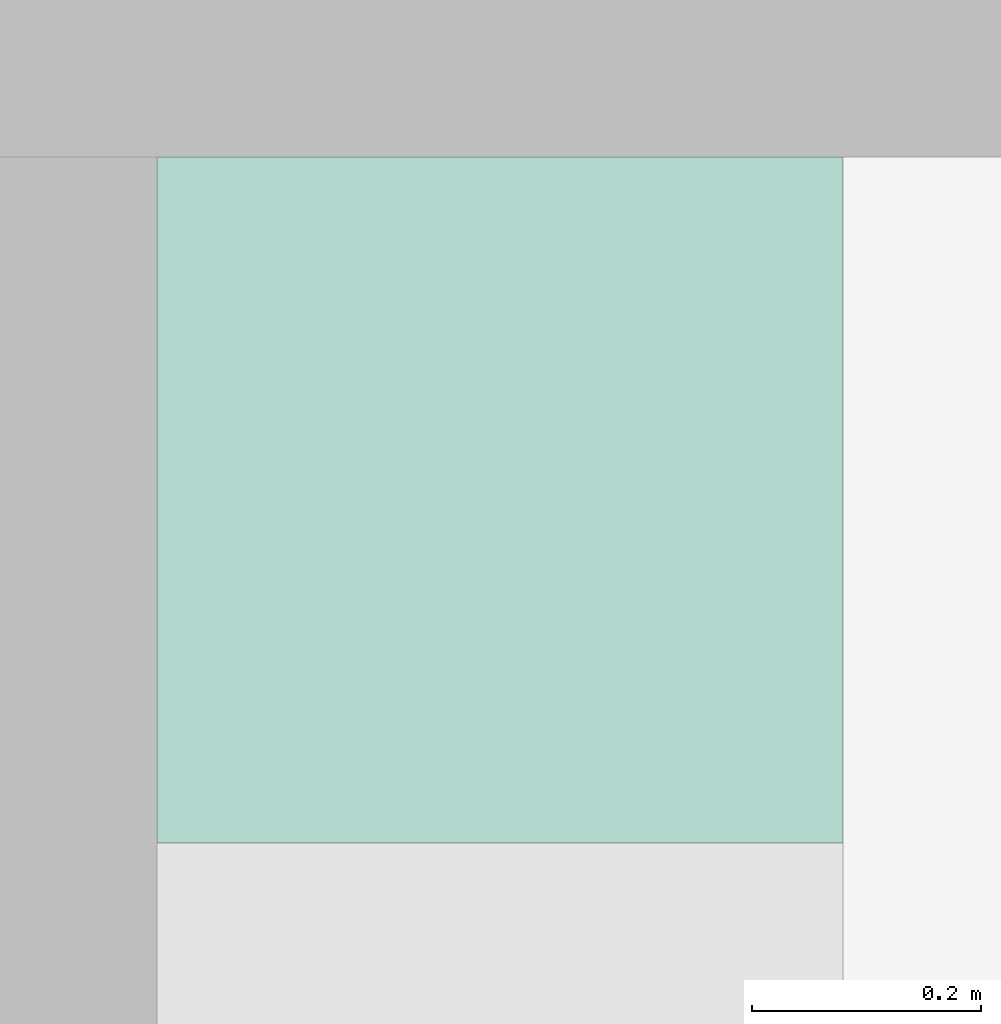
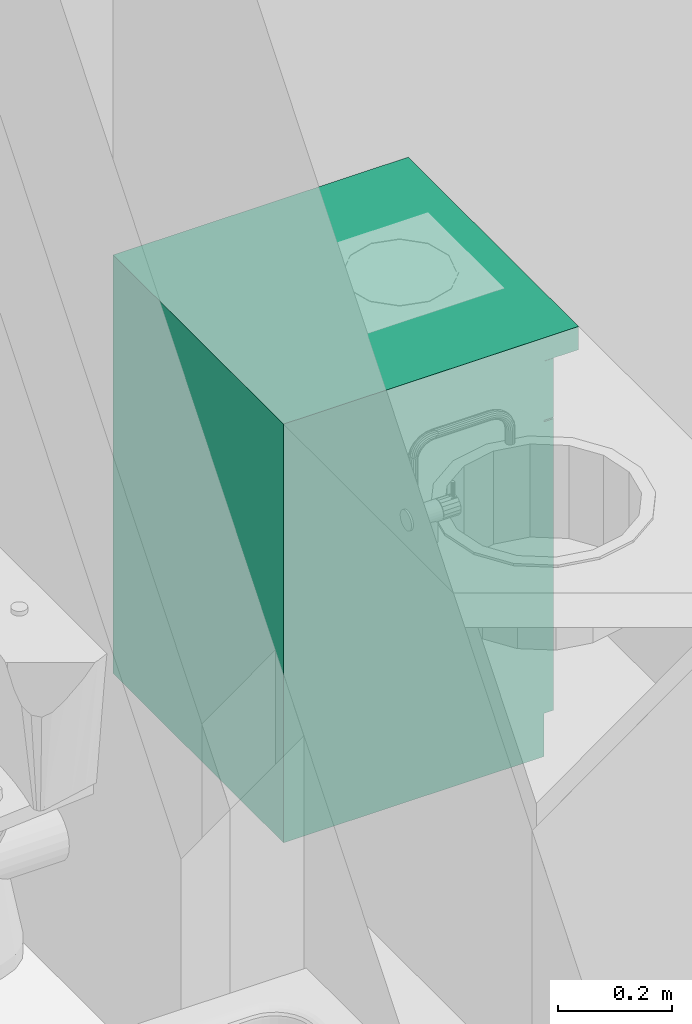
# One storey, part 39 of 165: 1 flow terminal.
"""IFC2X3 building model written with IfcOpenShell, lengths in millimetres."""

from ifc_helpers import new_model, entity, si_unit, converted_unit, money_unit, direction, frame, origin_with_axes, place, context, subcontext, project, spatial, faceted_brep, source, transform, mapped, material, material_list, type_object, element, save


model = new_model("IFC2X3")

# Units and contexts
model_context = context("Model", 3, precision=1e-05, world=origin_with_axes(), true_north=direction((0.0, 1.0)))
body_context = subcontext(model_context, "Body", "Model", "MODEL_VIEW")
ifc_project = project(units=[si_unit("LENGTHUNIT", "METRE", prefix="MILLI"), si_unit("AREAUNIT", "SQUARE_METRE"), si_unit("VOLUMEUNIT", "CUBIC_METRE"), converted_unit("PLANEANGLEUNIT", "DEGREE", entity("IfcPlaneAngleMeasure", 0.0174532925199), si_unit("PLANEANGLEUNIT", "RADIAN"), dimensions=[0, 0, 0, 0, 0, 0, 0]), si_unit("SOLIDANGLEUNIT", "STERADIAN"), money_unit("USD"), converted_unit("TIMEUNIT", "Year", entity("IfcTimeMeasure", 31556926.0), si_unit("TIMEUNIT", "SECOND"), dimensions=[0, 0, 0, 0, 0, 0, 0]), si_unit("MASSUNIT", "GRAM"), si_unit("THERMODYNAMICTEMPERATUREUNIT", "DEGREE_CELSIUS"), si_unit("LUMINOUSINTENSITYUNIT", "LUMEN")], contexts=[model_context])

# Site, building, storey
site_placement = place(None, origin_with_axes())
site = spatial("IfcSite", under=ifc_project, at=site_placement, Name="Site", CompositionType="ELEMENT")
building_placement = place(site_placement, origin_with_axes())
building = spatial("IfcBuilding", under=site, at=building_placement, Name="Building", CompositionType="ELEMENT")
storey_placement = place(building_placement, frame((0.0, 0.0, 6300.0), z_axis=(0.0, 0.0, 1.0), x_axis=(1.0, 0.0, 0.0)))
storey = spatial("IfcBuildingStorey", under=building, at=storey_placement, Name="4KORRUS", CompositionType="ELEMENT", Elevation=6300.0)

# Flow terminal
ifc_material = material(Name="Background")
ifc_material_list = material_list([ifc_material])
sanitary_terminal_type = type_object("IfcSanitaryTerminalType", Name="Cabinet Base Single Door 19", PredefinedType="SINK")
shared_shape = source(origin_with_axes(), body_context, "Body", "Brep", [
    faceted_brep([(20.0, 70.0, 710.0), (580.0, 70.0, 710.0), (580.0, 70.0, 730.0), (20.0, 70.0, 730.0), (20.0, 580.0, 710.0), (580.0, 580.0, 710.0), (580.0, 580.0, 730.0), (20.0, 580.0, 730.0)], [[[0, 1, 2, 3]], [[0, 4, 5, 1]], [[1, 5, 6, 2]], [[3, 2, 6, 7]], [[4, 0, 3, 7]], [[5, 4, 7, 6]]]),
    faceted_brep([(0.0, 70.0, 0.0), (600.0, 70.0, 0.0), (600.0, 70.0, 90.0), (0.0, 70.0, 90.0), (0.0, 600.0, 0.0), (600.0, 600.0, 0.0), (600.0, 600.0, 90.0), (0.0, 600.0, 90.0)], [[[0, 1, 2, 3]], [[0, 4, 5, 1]], [[1, 5, 6, 2]], [[3, 2, 6, 7]], [[4, 0, 3, 7]], [[5, 4, 7, 6]]]),
    faceted_brep([(0.0, 70.0, 830.0), (20.0, 70.0, 830.0), (20.0, 70.0, 850.0), (0.0, 70.0, 850.0), (0.0, 600.0, 830.0), (20.0, 600.0, 830.0), (580.0, 600.0, 830.0), (600.0, 600.0, 830.0), (600.0, 70.0, 830.0), (580.0, 70.0, 830.0), (580.0, 70.0, 850.0), (600.0, 70.0, 850.0), (600.0, 600.0, 850.0), (580.0, 600.0, 850.0), (20.0, 600.0, 850.0), (0.0, 600.0, 850.0)], [[[0, 1, 2, 3]], [[0, 4, 5, 6, 7, 8, 9, 1]], [[1, 9, 10, 2]], [[3, 2, 10, 11, 12, 13, 14, 15]], [[4, 0, 3, 15]], [[5, 4, 15, 14]], [[6, 5, 14, 13]], [[7, 6, 13, 12]], [[8, 7, 12, 11]], [[9, 8, 11, 10]]]),
    faceted_brep([(0.0, 70.0, 90.0), (20.0, 70.0, 90.0), (20.0, 70.0, 110.0), (0.0, 70.0, 110.0), (0.0, 600.0, 90.0), (20.0, 600.0, 90.0), (580.0, 600.0, 90.0), (600.0, 600.0, 90.0), (600.0, 70.0, 90.0), (580.0, 70.0, 90.0), (580.0, 70.0, 110.0), (600.0, 70.0, 110.0), (600.0, 600.0, 110.0), (580.0, 600.0, 110.0), (20.0, 600.0, 110.0), (0.0, 600.0, 110.0)], [[[0, 1, 2, 3]], [[0, 4, 5, 6, 7, 8, 9, 1]], [[1, 9, 10, 2]], [[3, 2, 10, 11, 12, 13, 14, 15]], [[4, 0, 3, 15]], [[5, 4, 15, 14]], [[6, 5, 14, 13]], [[7, 6, 13, 12]], [[8, 7, 12, 11]], [[9, 8, 11, 10]]]),
    faceted_brep([(0.0, 70.0, 110.0), (20.0, 70.0, 110.0), (20.0, 70.0, 830.0), (0.0, 70.0, 830.0), (0.0, 600.0, 110.0), (600.0, 600.0, 110.0), (600.0, 70.0, 110.0), (580.0, 70.0, 110.0), (580.0, 580.0, 110.0), (20.0, 580.0, 110.0), (20.0, 580.0, 830.0), (580.0, 580.0, 830.0), (580.0, 70.0, 830.0), (600.0, 70.0, 830.0), (600.0, 600.0, 830.0), (0.0, 600.0, 830.0)], [[[0, 1, 2, 3]], [[0, 4, 5, 6, 7, 8, 9, 1]], [[1, 9, 10, 2]], [[3, 2, 10, 11, 12, 13, 14, 15]], [[4, 0, 3, 15]], [[5, 4, 15, 14]], [[6, 5, 14, 13]], [[7, 6, 13, 12]], [[8, 7, 12, 11]], [[9, 8, 11, 10]]]),
    faceted_brep([(580.0, 70.0, 385.0), (580.0, 580.0, 385.0), (580.0, 580.0, 405.0), (580.0, 70.0, 405.0), (20.0, 70.0, 385.0), (20.0, 580.0, 385.0), (20.0, 580.0, 405.0), (20.0, 70.0, 405.0)], [[[0, 1, 2, 3]], [[0, 4, 5, 1]], [[1, 5, 6, 2]], [[3, 2, 6, 7]], [[4, 0, 3, 7]], [[5, 4, 7, 6]]]),
    faceted_brep([(0.0, 0.0, 850.0), (600.0, 0.0, 850.0), (600.0, 0.0, 900.0), (0.0, 0.0, 900.0), (0.0, 600.0, 850.0), (600.0, 600.0, 850.0), (600.0, 600.0, 900.0), (0.0, 600.0, 900.0)], [[[0, 1, 2, 3]], [[0, 4, 5, 1]], [[1, 5, 6, 2]], [[3, 2, 6, 7]], [[4, 0, 3, 7]], [[5, 4, 7, 6]]]),
    faceted_brep([(1.5, 70.0, 721.5), (598.5, 70.0, 721.5), (598.5, 50.0, 721.5), (1.5, 50.0, 721.5), (1.5, 70.0, 848.5), (598.5, 70.0, 848.5), (598.5, 50.0, 848.5), (1.5, 50.0, 848.5)], [[[0, 1, 2, 3]], [[0, 4, 5, 1]], [[1, 5, 6, 2]], [[3, 2, 6, 7]], [[4, 0, 3, 7]], [[5, 4, 7, 6]]]),
    faceted_brep([(295.408, 50.0, 773.913), (291.515, 50.0, 776.515), (288.913, 50.0, 780.408), (288.0, 50.0, 785.0), (288.913, 50.0, 789.592), (291.515, 50.0, 793.485), (295.408, 50.0, 796.087), (300.0, 50.0, 797.0), (304.592, 50.0, 796.087), (308.485, 50.0, 793.485), (311.087, 50.0, 789.592), (312.0, 50.0, 785.0), (311.087, 50.0, 780.408), (308.485, 50.0, 776.515), (304.592, 50.0, 773.913), (300.0, 50.0, 773.0), (295.408, 25.0, 773.913), (291.515, 25.0, 776.515), (288.913, 25.0, 780.408), (288.0, 25.0, 785.0), (288.913, 25.0, 789.592), (291.515, 25.0, 793.485), (295.408, 25.0, 796.087), (300.0, 25.0, 797.0), (304.592, 25.0, 796.087), (308.485, 25.0, 793.485), (311.087, 25.0, 789.592), (312.0, 25.0, 785.0), (311.087, 25.0, 780.408), (308.485, 25.0, 776.515), (304.592, 25.0, 773.913), (300.0, 25.0, 773.0)], [[[0, 1, 2, 3, 4, 5, 6, 7, 8, 9, 10, 11, 12, 13, 14, 15]], [[1, 0, 16, 17]], [[2, 1, 17, 18]], [[3, 2, 18, 19]], [[4, 3, 19, 20]], [[5, 4, 20, 21]], [[6, 5, 21, 22]], [[7, 6, 22, 23]], [[8, 7, 23, 24]], [[9, 8, 24, 25]], [[10, 9, 25, 26]], [[11, 10, 26, 27]], [[12, 11, 27, 28]], [[13, 12, 28, 29]], [[14, 13, 29, 30]], [[15, 14, 30, 31]], [[0, 15, 31, 16]], [[16, 31, 30, 29, 28, 27, 26, 25, 24, 23, 22, 21, 20, 19, 18, 17]]]),
    faceted_brep([(1.5, 70.0, 91.5), (598.5, 70.0, 91.5), (598.5, 50.0, 91.5), (1.5, 50.0, 91.5), (1.5, 70.0, 718.5), (598.5, 70.0, 718.5), (598.5, 50.0, 718.5), (1.5, 50.0, 718.5)], [[[0, 1, 2, 3]], [[0, 4, 5, 1]], [[1, 5, 6, 2]], [[3, 2, 6, 7]], [[4, 0, 3, 7]], [[5, 4, 7, 6]]]),
    faceted_brep([(559.587, 50.0, 636.908), (556.985, 50.0, 633.015), (553.092, 50.0, 630.413), (548.5, 50.0, 629.5), (543.908, 50.0, 630.413), (540.015, 50.0, 633.015), (537.413, 50.0, 636.908), (536.5, 50.0, 641.5), (537.413, 50.0, 646.092), (540.015, 50.0, 649.985), (543.908, 50.0, 652.587), (548.5, 50.0, 653.5), (553.092, 50.0, 652.587), (556.985, 50.0, 649.985), (559.587, 50.0, 646.092), (560.5, 50.0, 641.5), (559.587, 25.0, 636.908), (556.985, 25.0, 633.015), (553.092, 25.0, 630.413), (548.5, 25.0, 629.5), (543.908, 25.0, 630.413), (540.015, 25.0, 633.015), (537.413, 25.0, 636.908), (536.5, 25.0, 641.5), (537.413, 25.0, 646.092), (540.015, 25.0, 649.985), (543.908, 25.0, 652.587), (548.5, 25.0, 653.5), (553.092, 25.0, 652.587), (556.985, 25.0, 649.985), (559.587, 25.0, 646.092), (560.5, 25.0, 641.5)], [[[0, 1, 2, 3, 4, 5, 6, 7, 8, 9, 10, 11, 12, 13, 14, 15]], [[1, 0, 16, 17]], [[2, 1, 17, 18]], [[3, 2, 18, 19]], [[4, 3, 19, 20]], [[5, 4, 20, 21]], [[6, 5, 21, 22]], [[7, 6, 22, 23]], [[8, 7, 23, 24]], [[9, 8, 24, 25]], [[10, 9, 25, 26]], [[11, 10, 26, 27]], [[12, 11, 27, 28]], [[13, 12, 28, 29]], [[14, 13, 29, 30]], [[15, 14, 30, 31]], [[0, 15, 31, 16]], [[16, 31, 30, 29, 28, 27, 26, 25, 24, 23, 22, 21, 20, 19, 18, 17]]]),
])
flow_terminal_placement = place(storey_placement, frame((-17390.2967033, -13789.2398994, 0.0), z_axis=(0.0, 0.0, 1.0), x_axis=(0.0, 1.0, 0.0)))
element("IfcFlowTerminal", 1, at=flow_terminal_placement, inside=storey, type_object=sanitary_terminal_type, material=ifc_material_list, Name="FU - 007", context=body_context, shape_type="MappedRepresentation", body=[
    mapped(shared_shape, transform((0.0, 0.0, 0.0))),
])

save(model, "model.ifc")
